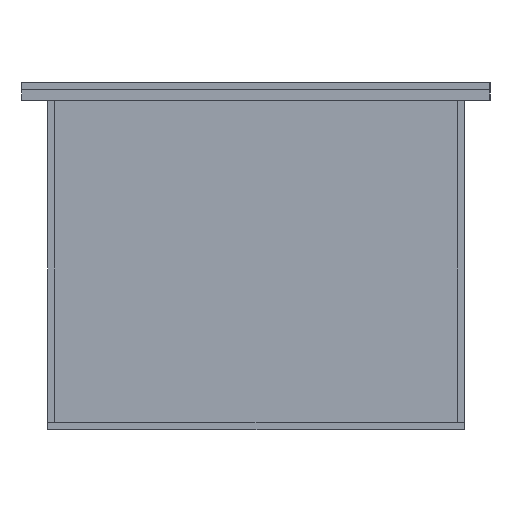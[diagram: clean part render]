
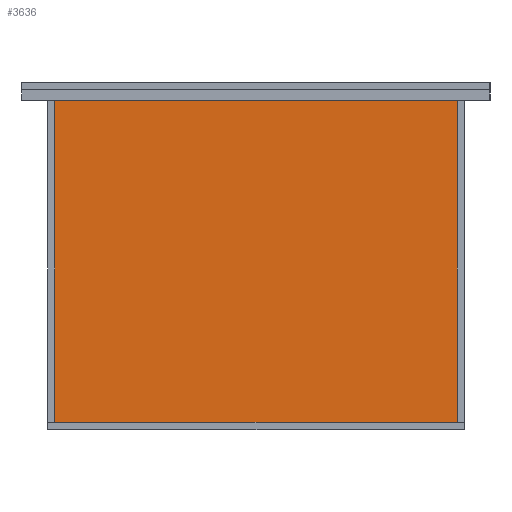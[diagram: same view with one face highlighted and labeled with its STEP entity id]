
A CAD part, left-side view. The second image highlights one B-rep face of the part: STEP entity #3636.
In plain terms, the highlighted planar face has unit normal (-1, 0, 0) as drawn and (0, 0, 1) by its records, which use the part's own axes.
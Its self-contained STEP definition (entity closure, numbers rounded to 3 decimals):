
#62 = DIRECTION ( 'NONE',  ( 1., 0., 0. ) ) ;
#83 = EDGE_CURVE ( 'NONE', #3018, #3570, #2227, .T. ) ;
#161 = EDGE_CURVE ( 'NONE', #3570, #1287, #3140, .T. ) ;
#259 = FACE_OUTER_BOUND ( 'NONE', #3301, .T. ) ;
#279 = PLANE ( 'NONE',  #291 ) ;
#291 = AXIS2_PLACEMENT_3D ( 'NONE', #3113, #4032, #2148 ) ;
#630 = CARTESIAN_POINT ( 'NONE',  ( 550., 0., 10. ) ) ;
#667 = CARTESIAN_POINT ( 'NONE',  ( 0., 0., 10. ) ) ;
#714 = VECTOR ( 'NONE', #3695, 1000. ) ;
#848 = EDGE_CURVE ( 'NONE', #1287, #3234, #3807, .T. ) ;
#883 = VECTOR ( 'NONE', #3744, 1000. ) ;
#1009 = CARTESIAN_POINT ( 'NONE',  ( 0., 440., 10. ) ) ;
#1035 = DIRECTION ( 'NONE',  ( -1., 0., 0. ) ) ;
#1287 = VERTEX_POINT ( 'NONE', #1482 ) ;
#1482 = CARTESIAN_POINT ( 'NONE',  ( 550., 440., 10. ) ) ;
#1621 = CARTESIAN_POINT ( 'NONE',  ( 0., 0., 10. ) ) ;
#1647 = ORIENTED_EDGE ( 'NONE', *, *, #83, .T. ) ;
#2039 = VECTOR ( 'NONE', #62, 1000. ) ;
#2148 = DIRECTION ( 'NONE',  ( -1., 0., 0. ) ) ;
#2209 = VECTOR ( 'NONE', #1035, 1000. ) ;
#2227 = LINE ( 'NONE', #667, #2039 ) ;
#2381 = ORIENTED_EDGE ( 'NONE', *, *, #3632, .T. ) ;
#2443 = CARTESIAN_POINT ( 'NONE',  ( 550., 0., 10. ) ) ;
#2478 = ORIENTED_EDGE ( 'NONE', *, *, #161, .T. ) ;
#2802 = CARTESIAN_POINT ( 'NONE',  ( 0., 0., 10. ) ) ;
#3018 = VERTEX_POINT ( 'NONE', #1621 ) ;
#3113 = CARTESIAN_POINT ( 'NONE',  ( 0., 0., 10. ) ) ;
#3140 = LINE ( 'NONE', #630, #883 ) ;
#3204 = CARTESIAN_POINT ( 'NONE',  ( 0., 440., 10. ) ) ;
#3234 = VERTEX_POINT ( 'NONE', #1009 ) ;
#3301 = EDGE_LOOP ( 'NONE', ( #2381, #1647, #2478, #3714 ) ) ;
#3570 = VERTEX_POINT ( 'NONE', #2443 ) ;
#3632 = EDGE_CURVE ( 'NONE', #3234, #3018, #4045, .T. ) ;
#3636 = ADVANCED_FACE ( 'NONE', ( #259 ), #279, .F. ) ;
#3695 = DIRECTION ( 'NONE',  ( 0., -1., 0. ) ) ;
#3714 = ORIENTED_EDGE ( 'NONE', *, *, #848, .T. ) ;
#3744 = DIRECTION ( 'NONE',  ( 0., 1., 0. ) ) ;
#3807 = LINE ( 'NONE', #3204, #2209 ) ;
#4032 = DIRECTION ( 'NONE',  ( 0., 0., -1. ) ) ;
#4045 = LINE ( 'NONE', #2802, #714 ) ;
